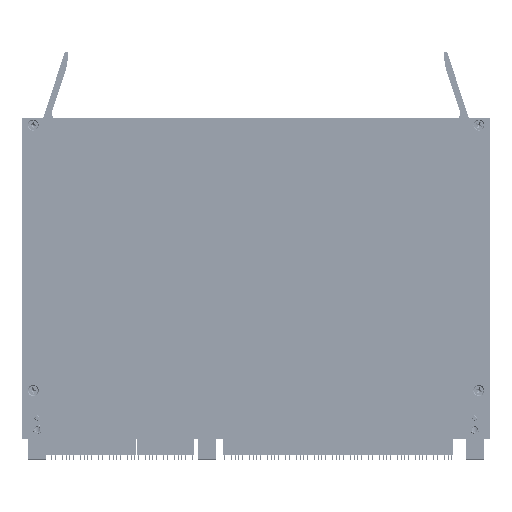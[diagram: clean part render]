
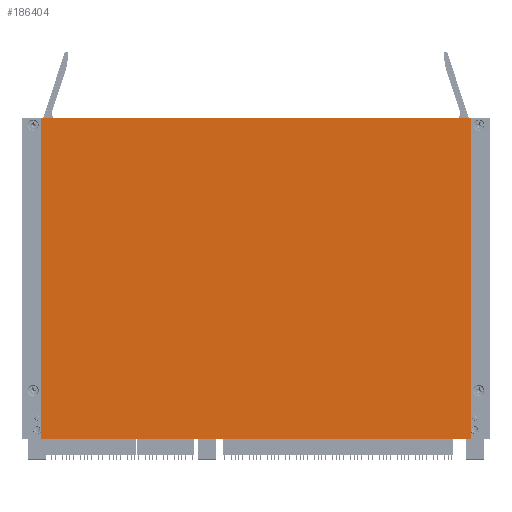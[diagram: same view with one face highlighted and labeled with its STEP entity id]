
A CAD part, left-side view. The second image highlights one B-rep face of the part: STEP entity #186404.
In plain terms, the highlighted planar face has unit normal (-1, 0, 0) as drawn and (0, 1, 0) by its records, which use the part's own axes.
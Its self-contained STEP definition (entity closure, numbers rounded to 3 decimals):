
#3550 = AXIS2_PLACEMENT_3D ( 'NONE', #32595, #52683, #192319 ) ;
#21631 = CARTESIAN_POINT ( 'NONE',  ( -107.213, 2.794, 160. ) ) ;
#23135 = VERTEX_POINT ( 'NONE', #24834 ) ;
#24834 = CARTESIAN_POINT ( 'NONE',  ( 107.213, 2.794, 0. ) ) ;
#32595 = CARTESIAN_POINT ( 'NONE',  ( -107.213, 2.794, 160. ) ) ;
#40967 = VERTEX_POINT ( 'NONE', #118741 ) ;
#42812 = LINE ( 'NONE', #52510, #195828 ) ;
#48532 = ORIENTED_EDGE ( 'NONE', *, *, #149403, .T. ) ;
#48784 = VERTEX_POINT ( 'NONE', #21631 ) ;
#50058 = EDGE_CURVE ( 'NONE', #48784, #175691, #83308, .T. ) ;
#52510 = CARTESIAN_POINT ( 'NONE',  ( -107.213, 2.794, 0. ) ) ;
#52683 = DIRECTION ( 'NONE',  ( 0., -1., 0. ) ) ;
#55764 = EDGE_LOOP ( 'NONE', ( #48532, #256089, #158021, #151774 ) ) ;
#56935 = EDGE_CURVE ( 'NONE', #40967, #48784, #231794, .T. ) ;
#74576 = CARTESIAN_POINT ( 'NONE',  ( -107.213, 2.794, 160. ) ) ;
#83308 = LINE ( 'NONE', #179692, #223883 ) ;
#94567 = DIRECTION ( 'NONE',  ( -1., 0., 0. ) ) ;
#100241 = DIRECTION ( 'NONE',  ( 0., 0., -1. ) ) ;
#118741 = CARTESIAN_POINT ( 'NONE',  ( 107.213, 2.794, 160. ) ) ;
#149403 = EDGE_CURVE ( 'NONE', #23135, #175691, #42812, .T. ) ;
#151563 = CARTESIAN_POINT ( 'NONE',  ( 107.213, 2.794, 160. ) ) ;
#151774 = ORIENTED_EDGE ( 'NONE', *, *, #241870, .T. ) ;
#158021 = ORIENTED_EDGE ( 'NONE', *, *, #56935, .F. ) ;
#175691 = VERTEX_POINT ( 'NONE', #229590 ) ;
#178569 = VECTOR ( 'NONE', #94567, 1000. ) ;
#179692 = CARTESIAN_POINT ( 'NONE',  ( -107.213, 2.794, 160. ) ) ;
#186404 = ADVANCED_FACE ( 'NONE', ( #222248 ), #209833, .F. ) ;
#192319 = DIRECTION ( 'NONE',  ( 0., 0., -1. ) ) ;
#195828 = VECTOR ( 'NONE', #212192, 1000. ) ;
#207717 = LINE ( 'NONE', #151563, #248400 ) ;
#209833 = PLANE ( 'NONE',  #3550 ) ;
#212192 = DIRECTION ( 'NONE',  ( -1., 0., 0. ) ) ;
#222248 = FACE_OUTER_BOUND ( 'NONE', #55764, .T. ) ;
#223883 = VECTOR ( 'NONE', #100241, 1000. ) ;
#229590 = CARTESIAN_POINT ( 'NONE',  ( -107.213, 2.794, 0. ) ) ;
#231794 = LINE ( 'NONE', #74576, #178569 ) ;
#241870 = EDGE_CURVE ( 'NONE', #40967, #23135, #207717, .T. ) ;
#248400 = VECTOR ( 'NONE', #251225, 1000. ) ;
#251225 = DIRECTION ( 'NONE',  ( 0., 0., -1. ) ) ;
#256089 = ORIENTED_EDGE ( 'NONE', *, *, #50058, .F. ) ;
